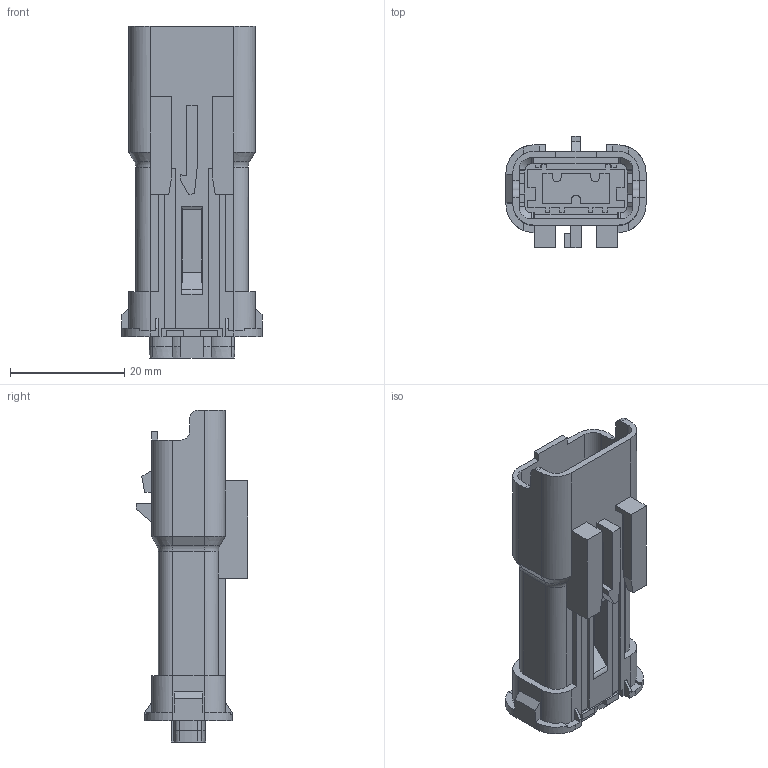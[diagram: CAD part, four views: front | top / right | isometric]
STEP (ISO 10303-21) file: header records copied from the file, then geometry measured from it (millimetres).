
FILE_DESCRIPTION(/* description */ (''),/* implementation_level */ '2;1');
FILE_NAME(/* name */ '33511733_ENV10_01.stp',/* time_stamp */ '2020-07-09T21:43:01+05:00',/* author */ (''),/* organization */ (''),/* preprocessor_version */ 'ST-DEVELOPER v16',/* originating_system */ 'SIEMENS PLM Software NX 11.0',/* authorisation */ '');
FILE_SCHEMA (('AP203_CONFIGURATION_CONTROLLED_3D_DESIGN_OF_MECHANICAL_PARTS_AND_ASSEMBLIES_MIM_LF { 1 0 10303 403 2 1 2}'));
Length unit declared in the file: millimetre
Products named in the file (1): qzs53380227A7lag
Bounding box: 24.5 x 19.55 x 58.05 mm (x, y, z)
Volume: 9507.6 mm3; surface area: 6759.8 mm2
Topology: 1 solids, 1 shells, 484 faces, 1379 edges, 895 vertices
Faces by surface type: plane 381, cylinder 61, cone 26, bspline 12, torus 4
Entity records: 16662 total; most frequent: CARTESIAN_POINT 3921, ORIENTED_EDGE 2758, DIRECTION 2472, EDGE_CURVE 1379, LINE 1136, VECTOR 1136, VERTEX_POINT 895, AXIS2_PLACEMENT_3D 668
